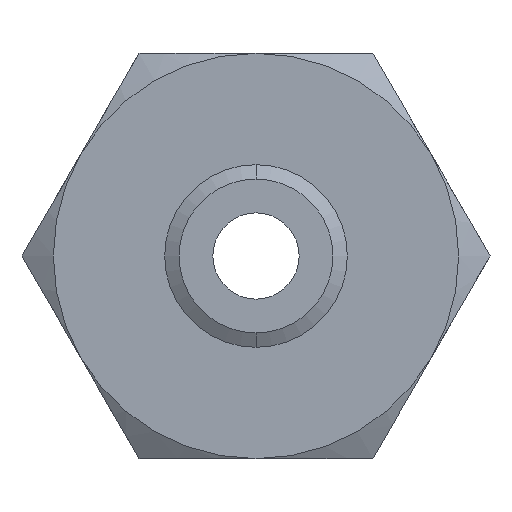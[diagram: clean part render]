
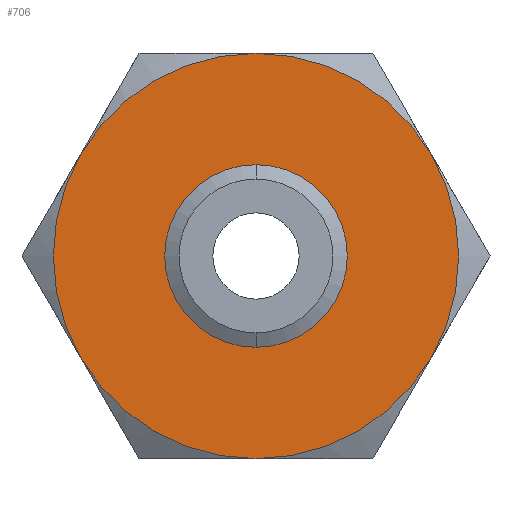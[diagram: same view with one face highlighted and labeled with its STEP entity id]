
A CAD part, front view. The second image highlights one B-rep face of the part: STEP entity #706.
In plain terms, the highlighted planar face has unit normal (0, -1, 0).
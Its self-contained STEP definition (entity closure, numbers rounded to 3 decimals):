
#486 = VERTEX_POINT ( 'NONE', #1760 ) ;
#487 = EDGE_CURVE ( 'NONE', #486, #488, #1759, .T. ) ;
#488 = VERTEX_POINT ( 'NONE', #1754 ) ;
#673 = ORIENTED_EDGE ( 'NONE', *, *, #695, .F. ) ;
#687 = EDGE_CURVE ( 'NONE', #488, #486, #2086, .T. ) ;
#688 = EDGE_CURVE ( 'NONE', #689, #692, #2141, .T. ) ;
#689 = VERTEX_POINT ( 'NONE', #2136 ) ;
#690 = VERTEX_POINT ( 'NONE', #2135 ) ;
#691 = ORIENTED_EDGE ( 'NONE', *, *, #698, .F. ) ;
#692 = VERTEX_POINT ( 'NONE', #2134 ) ;
#693 = EDGE_CURVE ( 'NONE', #692, #690, #2133, .T. ) ;
#694 = ORIENTED_EDGE ( 'NONE', *, *, #693, .F. ) ;
#695 = EDGE_CURVE ( 'NONE', #690, #704, #2128, .T. ) ;
#696 = VERTEX_POINT ( 'NONE', #2123 ) ;
#697 = ORIENTED_EDGE ( 'NONE', *, *, #688, .F. ) ;
#698 = EDGE_CURVE ( 'NONE', #696, #689, #2122, .T. ) ;
#700 = ORIENTED_EDGE ( 'NONE', *, *, #707, .F. ) ;
#702 = VERTEX_POINT ( 'NONE', #2112 ) ;
#704 = VERTEX_POINT ( 'NONE', #2113 ) ;
#706 = ADVANCED_FACE ( 'NONE', ( #2174, #2168 ), #2167, .F. ) ;
#707 = EDGE_CURVE ( 'NONE', #704, #702, #2166, .T. ) ;
#708 = EDGE_LOOP ( 'NONE', ( #700, #673, #694, #697, #691, #744 ) ) ;
#742 = EDGE_LOOP ( 'NONE', ( #746, #743 ) ) ;
#743 = ORIENTED_EDGE ( 'NONE', *, *, #687, .F. ) ;
#744 = ORIENTED_EDGE ( 'NONE', *, *, #745, .F. ) ;
#745 = EDGE_CURVE ( 'NONE', #702, #696, #2223, .T. ) ;
#746 = ORIENTED_EDGE ( 'NONE', *, *, #487, .F. ) ;
#1754 = CARTESIAN_POINT ( 'NONE',  ( 0., 0., 29.426 ) ) ;
#1755 = DIRECTION ( 'NONE',  ( 0., 0., -1. ) ) ;
#1756 = DIRECTION ( 'NONE',  ( 0., -1., 0. ) ) ;
#1757 = CARTESIAN_POINT ( 'NONE',  ( 0., 0., 0. ) ) ;
#1758 = AXIS2_PLACEMENT_3D ( 'NONE', #1757, #1756, #1755 ) ;
#1759 = CIRCLE ( 'NONE', #1758, 29.426 ) ;
#1760 = CARTESIAN_POINT ( 'NONE',  ( 0., 0., -29.426 ) ) ;
#2081 = AXIS2_PLACEMENT_3D ( 'NONE', #2144, #2143, #2142 ) ;
#2086 = CIRCLE ( 'NONE', #2081, 29.426 ) ;
#2112 = CARTESIAN_POINT ( 'NONE',  ( 67.117, 0., 38.75 ) ) ;
#2113 = CARTESIAN_POINT ( 'NONE',  ( 0., 0., 77.5 ) ) ;
#2118 = DIRECTION ( 'NONE',  ( 0., 0., 1. ) ) ;
#2119 = DIRECTION ( 'NONE',  ( 0., 1., 0. ) ) ;
#2120 = CARTESIAN_POINT ( 'NONE',  ( 0., 0., 0. ) ) ;
#2121 = AXIS2_PLACEMENT_3D ( 'NONE', #2120, #2119, #2118 ) ;
#2122 = CIRCLE ( 'NONE', #2121, 77.5 ) ;
#2123 = CARTESIAN_POINT ( 'NONE',  ( 67.117, 0., -38.75 ) ) ;
#2124 = DIRECTION ( 'NONE',  ( 0., 0., 1. ) ) ;
#2125 = DIRECTION ( 'NONE',  ( 0., 1., 0. ) ) ;
#2126 = CARTESIAN_POINT ( 'NONE',  ( 0., 0., 0. ) ) ;
#2127 = AXIS2_PLACEMENT_3D ( 'NONE', #2126, #2125, #2124 ) ;
#2128 = CIRCLE ( 'NONE', #2127, 77.5 ) ;
#2129 = DIRECTION ( 'NONE',  ( 0., 0., 1. ) ) ;
#2130 = DIRECTION ( 'NONE',  ( 0., 1., 0. ) ) ;
#2131 = CARTESIAN_POINT ( 'NONE',  ( 0., 0., 0. ) ) ;
#2132 = AXIS2_PLACEMENT_3D ( 'NONE', #2131, #2130, #2129 ) ;
#2133 = CIRCLE ( 'NONE', #2132, 77.5 ) ;
#2134 = CARTESIAN_POINT ( 'NONE',  ( -67.117, 0., -38.75 ) ) ;
#2135 = CARTESIAN_POINT ( 'NONE',  ( -67.117, 0., 38.75 ) ) ;
#2136 = CARTESIAN_POINT ( 'NONE',  ( 0., 0., -77.5 ) ) ;
#2137 = DIRECTION ( 'NONE',  ( 0., 0., 1. ) ) ;
#2138 = DIRECTION ( 'NONE',  ( 0., 1., 0. ) ) ;
#2139 = CARTESIAN_POINT ( 'NONE',  ( 0., 0., 0. ) ) ;
#2140 = AXIS2_PLACEMENT_3D ( 'NONE', #2139, #2138, #2137 ) ;
#2141 = CIRCLE ( 'NONE', #2140, 77.5 ) ;
#2142 = DIRECTION ( 'NONE',  ( 0., 0., -1. ) ) ;
#2143 = DIRECTION ( 'NONE',  ( 0., -1., 0. ) ) ;
#2144 = CARTESIAN_POINT ( 'NONE',  ( 0., 0., 0. ) ) ;
#2158 = DIRECTION ( 'NONE',  ( 0., 0., 1. ) ) ;
#2159 = DIRECTION ( 'NONE',  ( 0., 1., 0. ) ) ;
#2160 = CARTESIAN_POINT ( 'NONE',  ( 0., 0., 0. ) ) ;
#2161 = AXIS2_PLACEMENT_3D ( 'NONE', #2160, #2159, #2158 ) ;
#2162 = DIRECTION ( 'NONE',  ( 0., 0., 1. ) ) ;
#2163 = DIRECTION ( 'NONE',  ( 0., 1., 0. ) ) ;
#2164 = CARTESIAN_POINT ( 'NONE',  ( 44.745, 0., -77.5 ) ) ;
#2165 = AXIS2_PLACEMENT_3D ( 'NONE', #2164, #2163, #2162 ) ;
#2166 = CIRCLE ( 'NONE', #2161, 77.5 ) ;
#2167 = PLANE ( 'NONE',  #2165 ) ;
#2168 = FACE_BOUND ( 'NONE', #742, .T. ) ;
#2174 = FACE_OUTER_BOUND ( 'NONE', #708, .T. ) ;
#2219 = DIRECTION ( 'NONE',  ( 0., 0., 1. ) ) ;
#2220 = DIRECTION ( 'NONE',  ( 0., 1., 0. ) ) ;
#2221 = CARTESIAN_POINT ( 'NONE',  ( 0., 0., 0. ) ) ;
#2222 = AXIS2_PLACEMENT_3D ( 'NONE', #2221, #2220, #2219 ) ;
#2223 = CIRCLE ( 'NONE', #2222, 77.5 ) ;
